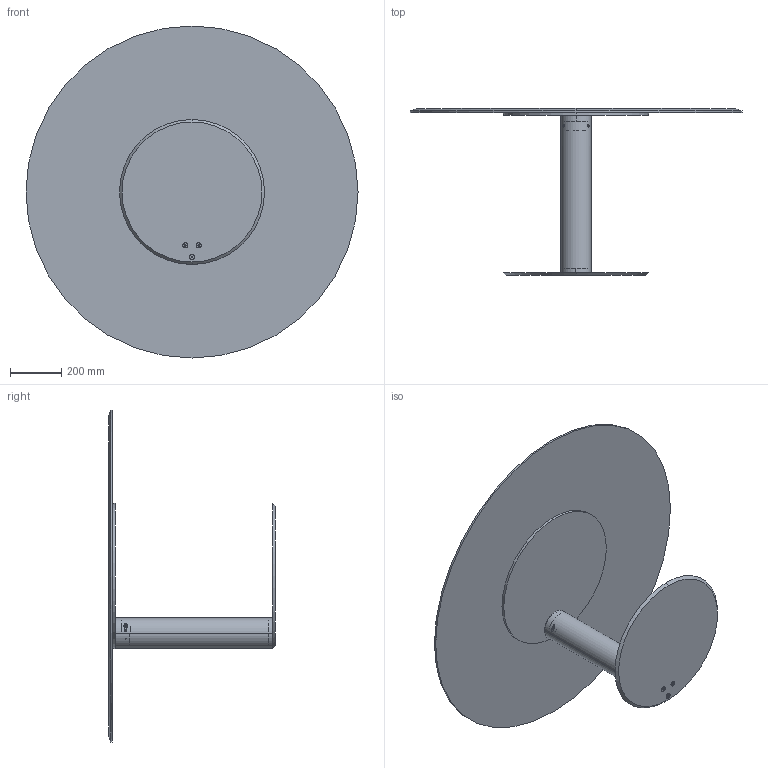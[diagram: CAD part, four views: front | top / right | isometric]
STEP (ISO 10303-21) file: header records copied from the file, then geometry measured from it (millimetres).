
FILE_DESCRIPTION (( 'STEP AP214' ), '1' );
FILE_NAME ('Ø130_LOUNGE.STEP', '2026-04-02T06:50:30', ( '' ), ( '' ), 'SwSTEP 2.0', 'SolidWorks 2025', '' );
FILE_SCHEMA (( 'AUTOMOTIVE_DESIGN' ));
Length unit declared in the file: millimetre
Products named in the file (12): OTO_blocchetto FE da saldare; OTO_piastra superiore_Ø568mm; Ø130_LOUNGE; OTO_anello fissaggio piastra sup; OTO_colonna interna Ø80_colonna interna_LOUNGE; socket head cap screw_am_B18.3.1M - 8 x 1.25 x 16 Hex SHCS -- 16NHX; OTO_piastra inferiore svasata_Ø568mm; piano_Ø130; socket countersunk head screw_am_B18.3.5M - 8 x 1.25 x 25 Socket FCHS  -- 25C; socket countersunk head screw_am_B18.3.5M - 10 x 1.5 x 40 Socket FCHS  -- 40N; OTO_anello piastra sup; OTO_colonnaØ120_colonna LOUNGE
Assembly tree (17 placements, depth 2):
  Ø130_LOUNGE
    OTO_colonna interna Ø80_colonna interna_LOUNGE
    OTO_blocchetto FE da saldare
    OTO_colonnaØ120_colonna LOUNGE
    OTO_anello fissaggio piastra sup
    OTO_anello piastra sup
    OTO_piastra inferiore svasata_Ø568mm
    OTO_piastra superiore_Ø568mm
    socket countersunk head screw_am_B18.3.5M - 8 x 1.25 x 25 Socket FCHS  -- 25C  x4
    piano_Ø130
    socket countersunk head screw_am_B18.3.5M - 10 x 1.5 x 40 Socket FCHS  -- 40N  x3
    socket head cap screw_am_B18.3.1M - 8 x 1.25 x 16 Hex SHCS -- 16NHX  x2
Bounding box: 1300 x 653.2 x 1300 mm (x, y, z)
Volume: 25948610.5 mm3; surface area: 4584655.7 mm2
Topology: 17 solids, 17 shells, 374 faces, 823 edges, 473 vertices
Faces by surface type: plane 152, cylinder 102, cone 102, torus 18
Entity records: 6856 total; most frequent: CARTESIAN_POINT 1481, DIRECTION 1157, ORIENTED_EDGE 938, EDGE_CURVE 469, AXIS2_PLACEMENT_3D 463, VERTEX_POINT 285, EDGE_LOOP 264, LINE 231
